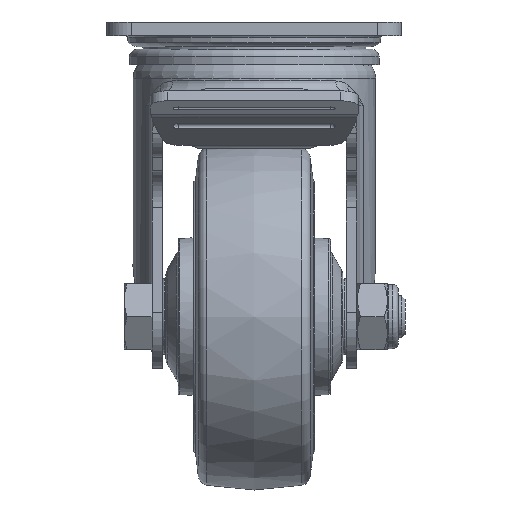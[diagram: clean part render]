
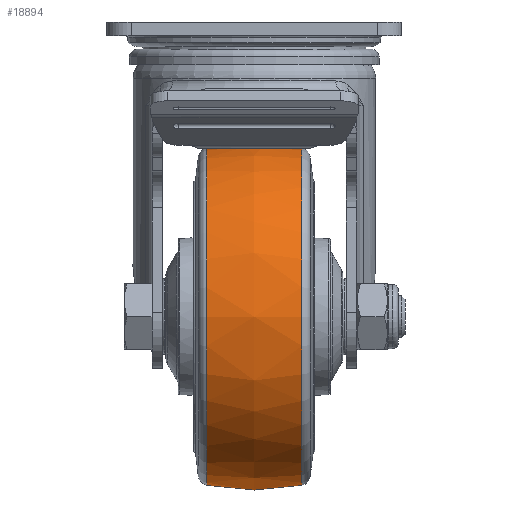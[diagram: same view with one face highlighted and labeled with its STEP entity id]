
A CAD part, front view. The second image highlights one B-rep face of the part: STEP entity #18894.
In plain terms, the highlighted free-form (B-spline) face has degree [2, 2] with [3, 9] control points.
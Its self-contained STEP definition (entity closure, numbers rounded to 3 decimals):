
#194=(
BOUNDED_CURVE()
B_SPLINE_CURVE(2,(#27201,#27202,#27203),.UNSPECIFIED.,.F.,.F.)
B_SPLINE_CURVE_WITH_KNOTS((3,3),(-0.198,0.198),
 .UNSPECIFIED.)
CURVE()
GEOMETRIC_REPRESENTATION_ITEM()
RATIONAL_B_SPLINE_CURVE((1.,0.981,1.))
REPRESENTATION_ITEM('')
);
#249=(
BOUNDED_SURFACE()
B_SPLINE_SURFACE(2,2,((#27170,#27171,#27172,#27173,#27174,#27175,#27176,
#27177,#27178),(#27179,#27180,#27181,#27182,#27183,#27184,#27185,#27186,
#27187),(#27188,#27189,#27190,#27191,#27192,#27193,#27194,#27195,#27196)),
 .UNSPECIFIED.,.F.,.T.,.F.)
B_SPLINE_SURFACE_WITH_KNOTS((3,3),(3,2,2,2,3),(-0.198,0.198),
(-3.142,-1.571,0.,1.571,3.142),
 .UNSPECIFIED.)
GEOMETRIC_REPRESENTATION_ITEM()
RATIONAL_B_SPLINE_SURFACE(((1.,0.707,1.,0.707,1.,
0.707,1.,0.707,1.),(0.981,0.693,
0.981,0.693,0.981,0.693,
0.981,0.693,0.981),(1.,0.707,
1.,0.707,1.,0.707,1.,0.707,1.)))
REPRESENTATION_ITEM('')
SURFACE()
);
#5376=FACE_OUTER_BOUND('',#6534,.T.);
#6534=EDGE_LOOP('',(#13328,#13329,#13330,#13331,#13332,#13333));
#7886=CIRCLE('',#20114,48.637);
#7887=CIRCLE('',#20115,48.637);
#7888=CIRCLE('',#20116,48.637);
#7889=CIRCLE('',#20117,48.637);
#8789=VERTEX_POINT('',#27166);
#8790=VERTEX_POINT('',#27167);
#8791=VERTEX_POINT('',#27197);
#8792=VERTEX_POINT('',#27198);
#10561=EDGE_CURVE('',#8789,#8790,#7886,.T.);
#10562=EDGE_CURVE('',#8790,#8789,#7887,.T.);
#10563=EDGE_CURVE('',#8791,#8792,#7888,.T.);
#10564=EDGE_CURVE('',#8792,#8791,#7889,.T.);
#10565=EDGE_CURVE('',#8792,#8790,#194,.T.);
#13328=ORIENTED_EDGE('',*,*,#10563,.F.);
#13329=ORIENTED_EDGE('',*,*,#10564,.F.);
#13330=ORIENTED_EDGE('',*,*,#10565,.T.);
#13331=ORIENTED_EDGE('',*,*,#10561,.F.);
#13332=ORIENTED_EDGE('',*,*,#10562,.F.);
#13333=ORIENTED_EDGE('',*,*,#10565,.F.);
#18894=ADVANCED_FACE('',(#5376),#249,.F.);
#20114=AXIS2_PLACEMENT_3D('',#27168,#22042,#22043);
#20115=AXIS2_PLACEMENT_3D('',#27169,#22044,#22045);
#20116=AXIS2_PLACEMENT_3D('',#27199,#22046,#22047);
#20117=AXIS2_PLACEMENT_3D('',#27200,#22048,#22049);
#22042=DIRECTION('center_axis',(-1.,0.,0.));
#22043=DIRECTION('ref_axis',(0.,-1.,0.));
#22044=DIRECTION('center_axis',(-1.,0.,0.));
#22045=DIRECTION('ref_axis',(0.,-1.,0.));
#22046=DIRECTION('center_axis',(1.,0.,0.));
#22047=DIRECTION('ref_axis',(0.,-1.,0.));
#22048=DIRECTION('center_axis',(1.,0.,0.));
#22049=DIRECTION('ref_axis',(0.,-1.,0.));
#27166=CARTESIAN_POINT('',(-13.744,13.637,-85.));
#27167=CARTESIAN_POINT('',(-13.744,-35.,-36.363));
#27168=CARTESIAN_POINT('Origin',(-13.744,-35.,-85.));
#27169=CARTESIAN_POINT('Origin',(-13.744,-35.,-85.));
#27170=CARTESIAN_POINT('Ctrl Pts',(-13.744,-35.,
-36.363));
#27171=CARTESIAN_POINT('Ctrl Pts',(-13.744,-83.637,
-36.363));
#27172=CARTESIAN_POINT('Ctrl Pts',(-13.744,-83.637,
-85.));
#27173=CARTESIAN_POINT('Ctrl Pts',(-13.744,-83.637,
-133.637));
#27174=CARTESIAN_POINT('Ctrl Pts',(-13.744,-35.,
-133.637));
#27175=CARTESIAN_POINT('Ctrl Pts',(-13.744,13.637,-133.637));
#27176=CARTESIAN_POINT('Ctrl Pts',(-13.744,13.637,-85.));
#27177=CARTESIAN_POINT('Ctrl Pts',(-13.744,13.637,-36.363));
#27178=CARTESIAN_POINT('Ctrl Pts',(-13.744,-35.,
-36.363));
#27179=CARTESIAN_POINT('Ctrl Pts',(0.,-35.,
-33.61));
#27180=CARTESIAN_POINT('Ctrl Pts',(0.,-86.39,
-33.61));
#27181=CARTESIAN_POINT('Ctrl Pts',(0.,-86.39,
-85.));
#27182=CARTESIAN_POINT('Ctrl Pts',(0.,-86.39,
-136.39));
#27183=CARTESIAN_POINT('Ctrl Pts',(0.,-35.,
-136.39));
#27184=CARTESIAN_POINT('Ctrl Pts',(0.,16.39,
-136.39));
#27185=CARTESIAN_POINT('Ctrl Pts',(0.,16.39,
-85.));
#27186=CARTESIAN_POINT('Ctrl Pts',(0.,16.39,
-33.61));
#27187=CARTESIAN_POINT('Ctrl Pts',(0.,-35.,
-33.61));
#27188=CARTESIAN_POINT('Ctrl Pts',(13.744,-35.,-36.363));
#27189=CARTESIAN_POINT('Ctrl Pts',(13.744,-83.637,-36.363));
#27190=CARTESIAN_POINT('Ctrl Pts',(13.744,-83.637,-85.));
#27191=CARTESIAN_POINT('Ctrl Pts',(13.744,-83.637,-133.637));
#27192=CARTESIAN_POINT('Ctrl Pts',(13.744,-35.,-133.637));
#27193=CARTESIAN_POINT('Ctrl Pts',(13.744,13.637,-133.637));
#27194=CARTESIAN_POINT('Ctrl Pts',(13.744,13.637,-85.));
#27195=CARTESIAN_POINT('Ctrl Pts',(13.744,13.637,-36.363));
#27196=CARTESIAN_POINT('Ctrl Pts',(13.744,-35.,-36.363));
#27197=CARTESIAN_POINT('',(13.744,13.637,-85.));
#27198=CARTESIAN_POINT('',(13.744,-35.,-36.363));
#27199=CARTESIAN_POINT('Origin',(13.744,-35.,-85.));
#27200=CARTESIAN_POINT('Origin',(13.744,-35.,-85.));
#27201=CARTESIAN_POINT('Ctrl Pts',(13.744,-35.,-36.363));
#27202=CARTESIAN_POINT('Ctrl Pts',(0.,-35.,
-33.61));
#27203=CARTESIAN_POINT('Ctrl Pts',(-13.744,-35.,
-36.363));
